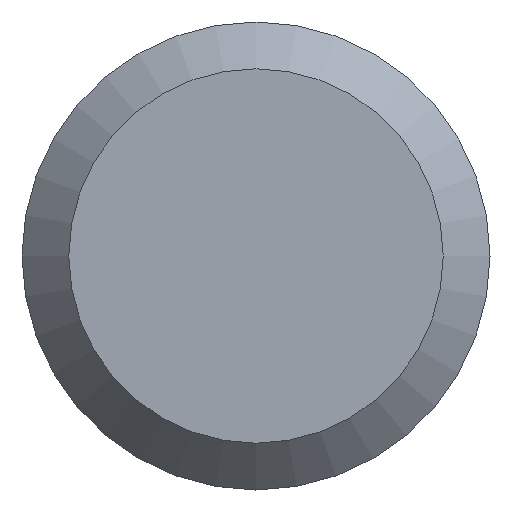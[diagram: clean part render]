
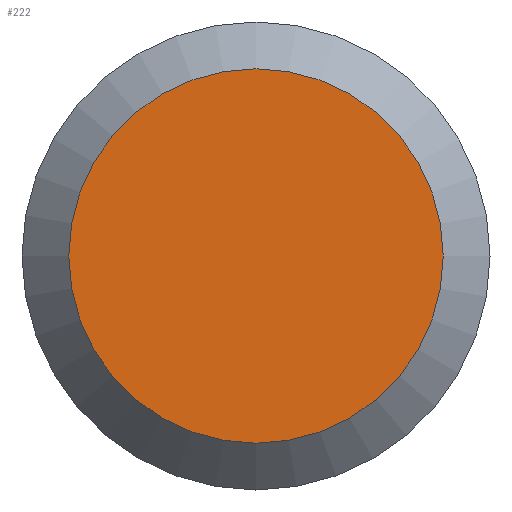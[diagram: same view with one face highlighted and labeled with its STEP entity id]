
A CAD part, left-side view. The second image highlights one B-rep face of the part: STEP entity #222.
In plain terms, the highlighted planar face has unit normal (-1, 0, 0).
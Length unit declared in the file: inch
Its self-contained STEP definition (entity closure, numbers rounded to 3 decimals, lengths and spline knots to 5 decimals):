
#1 = DIRECTION ( 'NONE',  ( 0., 0., -1. ) ) ;
#15 = AXIS2_PLACEMENT_3D ( 'NONE', #241, #152, #1 ) ;
#18 = ORIENTED_EDGE ( 'NONE', *, *, #208, .T. ) ;
#21 = AXIS2_PLACEMENT_3D ( 'NONE', #47, #75, #202 ) ;
#23 = EDGE_LOOP ( 'NONE', ( #18 ) ) ;
#47 = CARTESIAN_POINT ( 'NONE',  ( 0., 0.09, 0. ) ) ;
#75 = DIRECTION ( 'NONE',  ( 1., 0., 0. ) ) ;
#76 = FACE_OUTER_BOUND ( 'NONE', #23, .T. ) ;
#115 = CARTESIAN_POINT ( 'NONE',  ( 0., 0., -0.072 ) ) ;
#124 = VERTEX_POINT ( 'NONE', #115 ) ;
#141 = CIRCLE ( 'NONE', #15, 0.072 ) ;
#152 = DIRECTION ( 'NONE',  ( -1., 0., 0. ) ) ;
#202 = DIRECTION ( 'NONE',  ( 0., 0., -1. ) ) ;
#208 = EDGE_CURVE ( 'NONE', #124, #124, #141, .T. ) ;
#222 = ADVANCED_FACE ( 'NONE', ( #76 ), #244, .F. ) ;
#241 = CARTESIAN_POINT ( 'NONE',  ( 0., 0., 0. ) ) ;
#244 = PLANE ( 'NONE',  #21 ) ;
